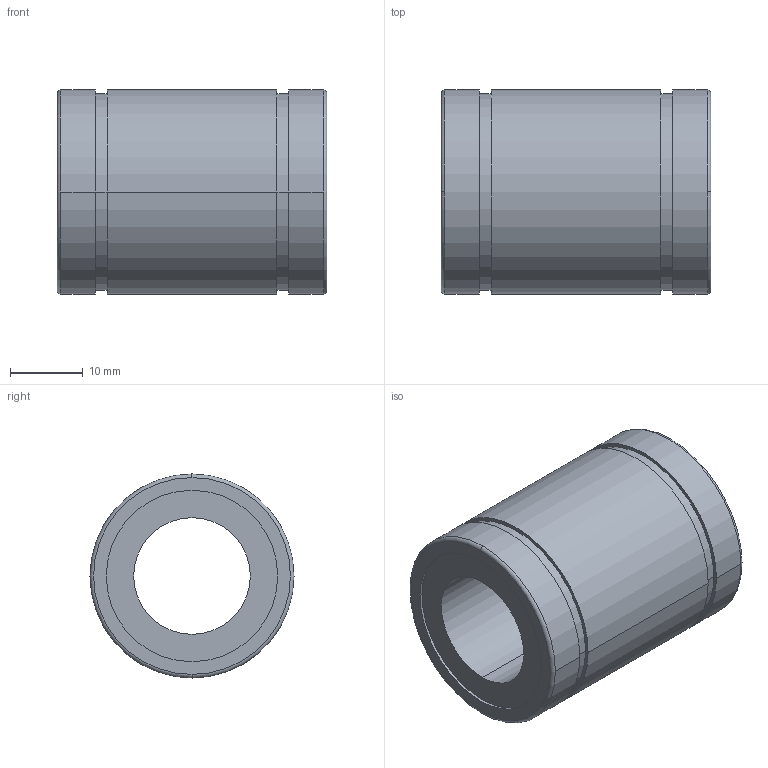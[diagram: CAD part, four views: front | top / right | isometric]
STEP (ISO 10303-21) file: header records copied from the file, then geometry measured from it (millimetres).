
FILE_DESCRIPTION(('FreeCAD Model'),'2;1');
FILE_NAME('Open CASCADE Shape Model','2021-05-03T10:53:46',('Author'),( ''),'Open CASCADE STEP processor 7.5','FreeCAD','Unknown');
FILE_SCHEMA(('AUTOMOTIVE_DESIGN { 1 0 10303 214 1 1 1 1 }'));
Length unit declared in the file: millimetre
Products named in the file (1): ball_bearing_lm16uu
Bounding box: 37 x 28 x 28 mm (x, y, z)
Volume: 15023.2 mm3; surface area: 6086.1 mm2
Topology: 1 solids, 1 shells, 28 faces, 62 edges, 42 vertices
Faces by surface type: cylinder 16, plane 8, torus 4
Entity records: 1893 total; most frequent: CARTESIAN_POINT 395, DIRECTION 267, ORIENTED_EDGE 124, PCURVE 124, DEFINITIONAL_REPRESENTATION 124, LINE 106, VECTOR 106, AXIS2_PLACEMENT_3D 75
